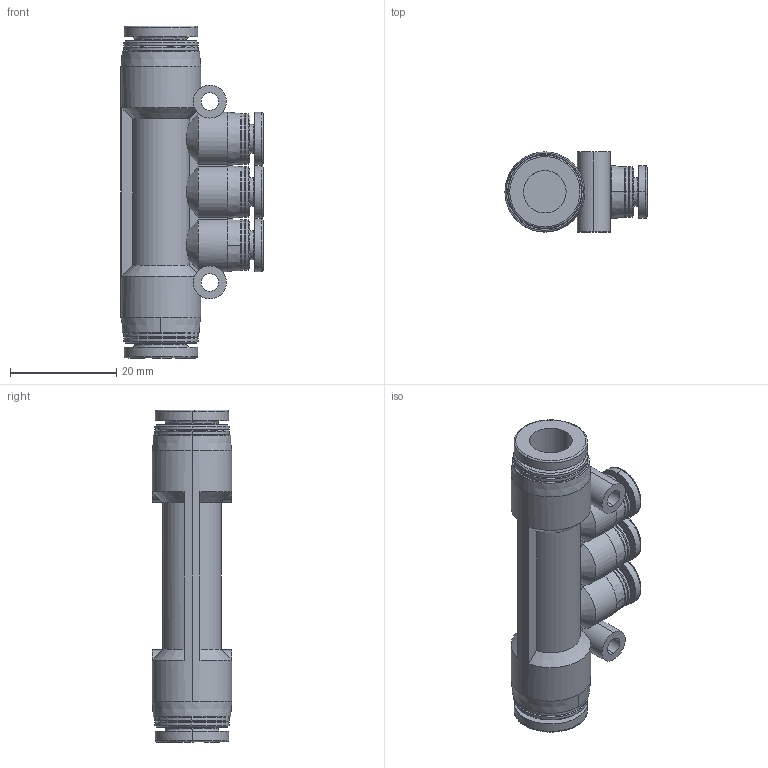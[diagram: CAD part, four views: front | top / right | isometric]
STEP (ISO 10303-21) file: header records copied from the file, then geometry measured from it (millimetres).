
FILE_DESCRIPTION (( 'STEP AP214' ), '1' );
FILE_NAME ('APKG8-4.STEP', '2019-12-06T01:24:27', ( '微软用户' ), ( '微软中国' ), 'SwSTEP 2.0', 'SolidWorks 2016', '' );
FILE_SCHEMA (( 'AUTOMOTIVE_DESIGN' ));
Length unit declared in the file: millimetre
Products named in the file (1): APKG8-4
Bounding box: 26.7 x 15 x 62.4 mm (x, y, z)
Volume: 9517.2 mm3; surface area: 7143.9 mm2
Topology: 1 solids, 1 shells, 202 faces, 474 edges, 294 vertices
Faces by surface type: cone 72, cylinder 67, plane 43, bspline 20
Entity records: 7241 total; most frequent: CARTESIAN_POINT 2590, DIRECTION 1016, ORIENTED_EDGE 948, EDGE_CURVE 474, AXIS2_PLACEMENT_3D 431, VERTEX_POINT 294, CIRCLE 248, EDGE_LOOP 226
